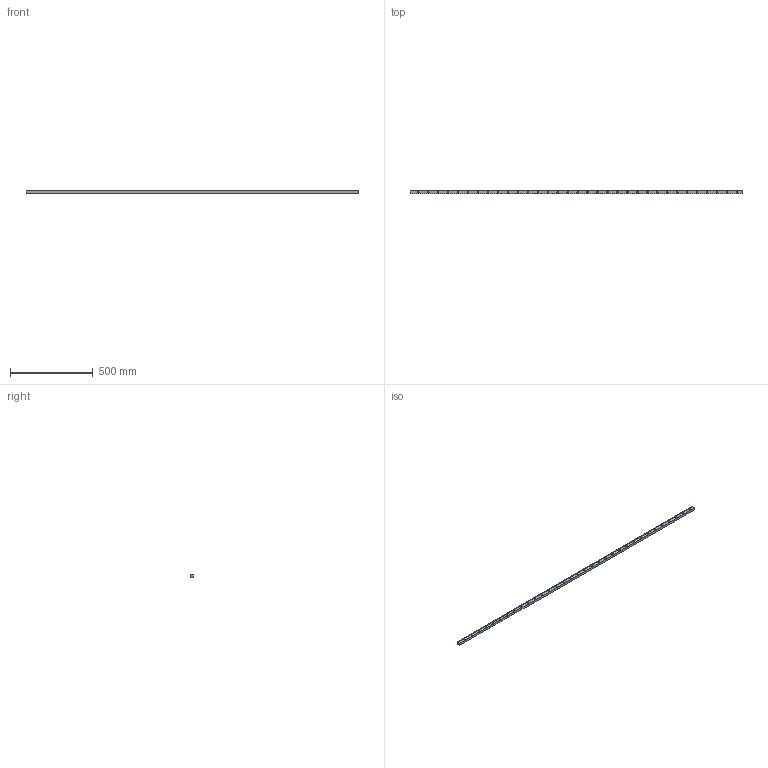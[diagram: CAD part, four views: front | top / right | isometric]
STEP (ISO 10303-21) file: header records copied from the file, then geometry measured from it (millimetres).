
FILE_DESCRIPTION(('STEP AP214'), '1');
FILE_NAME('RH1-1520', '2025-01-15T10:26:07', ('q'), (''), 'C3D Converter', 'C3D Toolkit', '');
FILE_SCHEMA(('AUTOMOTIVE_DESIGN { 1 0 10303 214 3 1 1}'));
Length unit declared in the file: millimetre
Bounding box: 2000 x 20 x 15 mm (x, y, z)
Volume: 554567.8 mm3; surface area: 175862.4 mm2
Topology: 1 solids, 1 shells, 2511 faces, 7428 edges, 4952 vertices
Faces by surface type: plane 2445, cylinder 66
Full cylindrical faces by diameter (mm): 5.5 x33, 9 x33
Entity records: 102119 total; most frequent: CARTESIAN_POINT 14826, ORIENTED_EDGE 14724, DIRECTION 12518, EDGE_CURVE 7362, LINE 7230, VECTOR 7230, VERTEX_POINT 4952, EDGE_LOOP 2676
